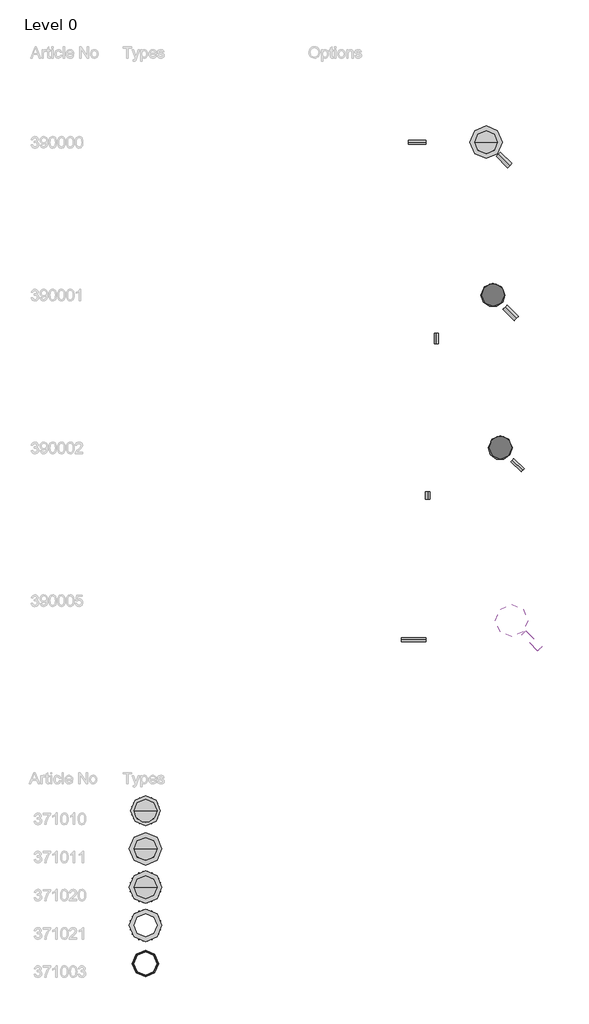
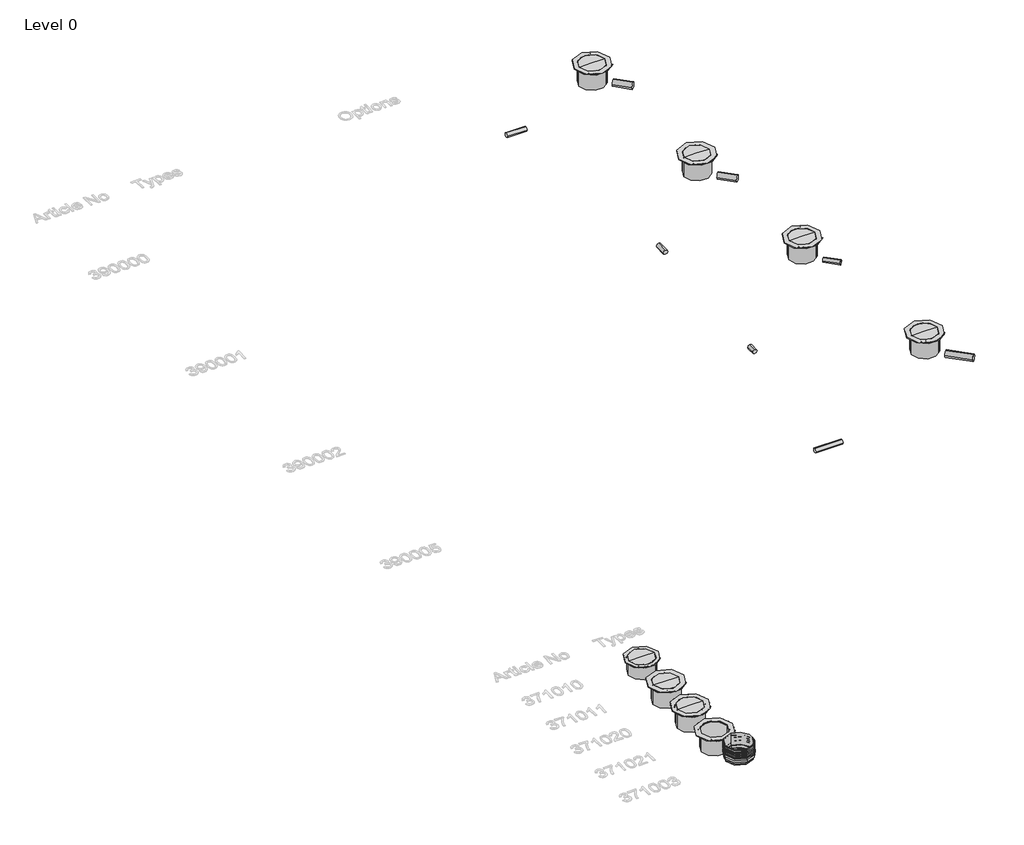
# One storey, part 1 of 14: 9 proxies, 8 pipe segments.
"""IFC4 building model written with IfcOpenShell, lengths in millimetres."""

from ifc_helpers import new_model, si_unit, point, frame, frame_2d, origin, place, context, project, spatial, circle_curve, trimmed, segment, composite_curve, outline, extrude, transform, mapped, element, save
from components import specialty_equipment_2c5f0238, specialty_equipment_5184973a, proxy_600_mini_8c9d897d, dome_600_vehicle_504724ee, intermediate_section_dn600_300mm_32245d74

model = new_model("IFC4")

# Units and contexts
model_context = context("Model", 3, world=origin())
ifc_project = project(units=[si_unit("LENGTHUNIT", "METRE", prefix="MILLI")], contexts=[model_context])

# Site, building, storey
site = spatial("IfcSite", under=ifc_project)
building = spatial("IfcBuilding", under=site)
storey = spatial("IfcBuildingStorey", under=building, Name="Level 0", Elevation=0.0)

# Proxies
placement = place(None, origin())
specialty_equipment_shape = specialty_equipment_2c5f0238(model_context)
element("IfcBuildingElementProxy", 1, Name="GRAF Tele Dome 600 Lorry : Dome 600 Lorry", ObjectType="GRAF Tele Dome 600 Lorry : Dome 600 Lorry", at=placement, inside=storey, context=model_context, shape_type="MappedRepresentation", body=[
    mapped(specialty_equipment_shape, transform((-3270.8351154, -11050.6026275, 0.0), x_axis=(1.0, 0.0, 0.0), y_axis=(0.0, 1.0, 0.0), z_axis=(0.0, 0.0, 1.0))),
])
specialty_equipment_2_shape = specialty_equipment_5184973a(model_context)
element("IfcBuildingElementProxy", 2, Name="GRAF Tele Dome 600 Maxi : 600 Maxi", ObjectType="GRAF Tele Dome 600 Maxi : 600 Maxi", at=placement, inside=storey, context=model_context, shape_type="MappedRepresentation", body=[
    mapped(specialty_equipment_2_shape, transform((6324.8797995, -3070.9767983, 1800.0), x_axis=(1.0, 0.0, 0.0), y_axis=(0.0, 1.0, 0.0), z_axis=(0.0, 0.0, 1.0))),
])
element("IfcBuildingElementProxy", 3, Name="GRAF Tele Dome 600 Maxi : 600 Maxi", ObjectType="GRAF Tele Dome 600 Maxi : 600 Maxi", at=placement, inside=storey, context=model_context, shape_type="MappedRepresentation", body=[
    mapped(specialty_equipment_2_shape, transform((5834.4926466, 5449.0842007, 1285.0), x_axis=(1.0, 0.0, 0.0), y_axis=(0.0, 1.0, 0.0), z_axis=(0.0, 0.0, 1.0))),
])
element("IfcBuildingElementProxy", 4, Name="GRAF Tele Dome 600 Maxi : 600 Maxi", ObjectType="GRAF Tele Dome 600 Maxi : 600 Maxi", at=placement, inside=storey, context=model_context, shape_type="MappedRepresentation", body=[
    mapped(specialty_equipment_2_shape, transform((5654.2075614, 9449.0232018, 1190.0), x_axis=(1.0, 0.0, 0.0), y_axis=(0.0, 1.0, 0.0), z_axis=(0.0, 0.0, 1.0))),
])
element("IfcBuildingElementProxy", 5, Name="GRAF Tele Dome 600 Maxi : 600 Maxi", ObjectType="GRAF Tele Dome 600 Maxi : 600 Maxi", at=placement, inside=storey, context=model_context, shape_type="MappedRepresentation", body=[
    mapped(specialty_equipment_2_shape, transform((6024.8797995, 1449.0842007, 1550.0), x_axis=(1.0, 0.0, 0.0), y_axis=(0.0, 1.0, 0.0), z_axis=(0.0, 0.0, 1.0))),
])
element("IfcBuildingElementProxy", 6, Name="GRAF Tele Dome 600 Maxi : 600 Maxi", ObjectType="GRAF Tele Dome 600 Maxi : 600 Maxi", at=placement, inside=storey, context=model_context, shape_type="MappedRepresentation", body=[
    mapped(specialty_equipment_2_shape, transform((-3270.8351154, -9050.9985493, 0.0), x_axis=(1.0, 0.0, 0.0), y_axis=(0.0, 1.0, 0.0), z_axis=(0.0, 0.0, 1.0))),
])
proxy_600_mini_shape = proxy_600_mini_8c9d897d(model_context)
element("IfcBuildingElementProxy", 7, Name="GRAF Tele Dome 600 Mini : 600 Mini", ObjectType="GRAF Tele Dome 600 Mini : 600 Mini", at=placement, inside=storey, context=model_context, shape_type="MappedRepresentation", body=[
    mapped(proxy_600_mini_shape, transform((-3270.8351154, -8050.9985493, 0.0), x_axis=(1.0, 0.0, 0.0), y_axis=(0.0, 1.0, 0.0), z_axis=(0.0, 0.0, 1.0))),
])
dome_600_vehicle_shape = dome_600_vehicle_504724ee(model_context)
element("IfcBuildingElementProxy", 8, Name="GRAF Tele Dome 600 Vehicle : Dome 600 Vehicle", ObjectType="GRAF Tele Dome 600 Vehicle : Dome 600 Vehicle", at=placement, inside=storey, context=model_context, shape_type="MappedRepresentation", body=[
    mapped(dome_600_vehicle_shape, transform((-3270.8351154, -10050.6026275, 0.0), x_axis=(1.0, 0.0, 0.0), y_axis=(0.0, 1.0, 0.0), z_axis=(0.0, 0.0, 1.0))),
])
intermediate_section_dn600_300mm_shape = intermediate_section_dn600_300mm_32245d74(model_context)
element("IfcBuildingElementProxy", 9, Name="GRAF Intermediate Section DN600 - 300mm : Intermediate Section DN600 - 300mm", ObjectType="GRAF Intermediate Section DN600 - 300mm : Intermediate Section DN600 - 300mm", at=placement, inside=storey, context=model_context, shape_type="MappedRepresentation", body=[
    mapped(intermediate_section_dn600_300mm_shape, transform((-2985.8351154, -12050.6026275, 0.0), x_axis=(1.0, 0.0, 0.0), y_axis=(0.0, 1.0, 0.0), z_axis=(0.0, 0.0, 1.0))),
])

# Pipe segments
element("IfcPipeSegment", 10, ObjectType="PE Waste Water", at=placement, inside=storey, context=model_context, shape_type="SweptSolid", body=[
    extrude(outline(composite_curve([segment(trimmed(circle_curve(frame_2d((0.0, -80.0)), 80.0), [point((-80.0, -80.0))], [point((0.0, 0.0))], False, "CARTESIAN"), True, "CONTINUOUS"), segment(trimmed(circle_curve(frame_2d((0.0, -80.0)), 80.0), [point((0.0, 0.0))], [point((80.0, -80.0))], False, "CARTESIAN"), True, "CONTINUOUS"), segment(trimmed(circle_curve(frame_2d((0.0, -80.0)), 80.0), [point((80.0, -80.0))], [point((0.0, -160.0))], False, "CARTESIAN"), True, "CONTINUOUS"), segment(trimmed(circle_curve(frame_2d((0.0, -80.0)), 80.0), [point((0.0, -160.0))], [point((-80.0, -80.0))], False, "CARTESIAN"), True, "CONTINUOUS")], self_intersect=False)), frame((7066.1089595, -3814.6718788, 1245.7566535), z_axis=(-0.7071067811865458, 0.7071067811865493, 0.0), x_axis=(0.7071067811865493, 0.7071067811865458, 0.0)), (0.0, 0.0, 1.0), 600.0),
])
element("IfcPipeSegment", 11, ObjectType="PE Waste Water", at=placement, inside=storey, context=model_context, shape_type="SweptSolid", body=[
    extrude(outline(composite_curve([segment(trimmed(circle_curve(frame_2d((-3575.9767992, 125.0)), 55.0), [point((-3520.9767992, 125.0))], [point((-3575.9767992, 70.0))], False, "CARTESIAN"), True, "CONTINUOUS"), segment(trimmed(circle_curve(frame_2d((-3575.9767992, 125.0)), 55.0), [point((-3575.9767992, 70.0))], [point((-3630.9767992, 125.0))], False, "CARTESIAN"), True, "CONTINUOUS"), segment(trimmed(circle_curve(frame_2d((-3575.9767992, 125.0)), 55.0), [point((-3630.9767992, 125.0))], [point((-3575.9767992, 180.0))], False, "CARTESIAN"), True, "CONTINUOUS"), segment(trimmed(circle_curve(frame_2d((-3575.9767992, 125.0)), 55.0), [point((-3575.9767992, 180.0))], [point((-3520.9767992, 125.0))], False, "CARTESIAN"), True, "CONTINUOUS")], self_intersect=False)), frame((3429.8797994, 0.0, 0.0), z_axis=(1.0, 0.0, 0.0), x_axis=(0.0, 1.0, 0.0)), (0.0, 0.0, 1.0), 643.9376709),
])
element("IfcPipeSegment", 12, ObjectType="PE Waste Water", at=placement, inside=storey, context=model_context, shape_type="SweptSolid", body=[
    extrude(outline(composite_curve([segment(trimmed(circle_curve(frame_2d((140.0, 4124.4926466)), 55.0), [point((140.0, 4069.4926466))], [point((85.0, 4124.4926466))], False, "CARTESIAN"), True, "CONTINUOUS"), segment(trimmed(circle_curve(frame_2d((140.0, 4124.4926466)), 55.0), [point((85.0, 4124.4926466))], [point((140.0, 4179.4926466))], False, "CARTESIAN"), True, "CONTINUOUS"), segment(trimmed(circle_curve(frame_2d((140.0, 4124.4926466)), 55.0), [point((140.0, 4179.4926466))], [point((195.0, 4124.4926466))], False, "CARTESIAN"), True, "CONTINUOUS"), segment(trimmed(circle_curve(frame_2d((140.0, 4124.4926466)), 55.0), [point((195.0, 4124.4926466))], [point((140.0, 4069.4926466))], False, "CARTESIAN"), True, "CONTINUOUS")], self_intersect=False)), frame((0.0, 103.0842007, 0.0), z_axis=(0.0, 1.0, 0.0), x_axis=(0.0, 0.0, 1.0)), (0.0, 0.0, 1.0), 196.0),
])
element("IfcPipeSegment", 13, ObjectType="PE Waste Water", at=placement, inside=storey, context=model_context, shape_type="SweptSolid", body=[
    extrude(outline(composite_curve([segment(trimmed(circle_curve(frame_2d((0.0, -55.0)), 55.0), [point((-55.0, -55.0))], [point((0.0, 0.0))], False, "CARTESIAN"), True, "CONTINUOUS"), segment(trimmed(circle_curve(frame_2d((0.0, -55.0)), 55.0), [point((0.0, 0.0))], [point((55.0, -55.0))], False, "CARTESIAN"), True, "CONTINUOUS"), segment(trimmed(circle_curve(frame_2d((0.0, -55.0)), 55.0), [point((55.0, -55.0))], [point((0.0, -110.0))], False, "CARTESIAN"), True, "CONTINUOUS"), segment(trimmed(circle_curve(frame_2d((0.0, -55.0)), 55.0), [point((0.0, -110.0))], [point((-55.0, -55.0))], False, "CARTESIAN"), True, "CONTINUOUS")], self_intersect=False)), frame((6612.1532641, 863.9576627, 995.0), z_axis=(-0.7071067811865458, 0.7071067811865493, 0.0), x_axis=(0.7071067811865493, 0.7071067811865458, 0.0)), (0.0, 0.0, 1.0), 375.7502166),
])
element("IfcPipeSegment", 14, ObjectType="PE Waste Water", at=placement, inside=storey, context=model_context, shape_type="SweptSolid", body=[
    extrude(outline(composite_curve([segment(trimmed(circle_curve(frame_2d((0.0, -80.0)), 80.0), [point((-80.0, -80.0))], [point((0.0, 0.0))], False, "CARTESIAN"), True, "CONTINUOUS"), segment(trimmed(circle_curve(frame_2d((0.0, -80.0)), 80.0), [point((0.0, 0.0))], [point((80.0, -80.0))], False, "CARTESIAN"), True, "CONTINUOUS"), segment(trimmed(circle_curve(frame_2d((0.0, -80.0)), 80.0), [point((80.0, -80.0))], [point((0.0, -160.0))], False, "CARTESIAN"), True, "CONTINUOUS"), segment(trimmed(circle_curve(frame_2d((0.0, -80.0)), 80.0), [point((0.0, -160.0))], [point((-80.0, -80.0))], False, "CARTESIAN"), True, "CONTINUOUS")], self_intersect=False)), frame((6446.6704956, 4836.9063517, 730.0), z_axis=(-0.7071067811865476, 0.7071067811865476, 0.0), x_axis=(0.7071067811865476, 0.7071067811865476, 0.0)), (0.0, 0.0, 1.0), 415.7502166),
])
element("IfcPipeSegment", 15, ObjectType="PE Waste Water", at=placement, inside=storey, context=model_context, shape_type="SweptSolid", body=[
    extrude(outline(composite_curve([segment(trimmed(circle_curve(frame_2d((0.0, -55.0)), 55.0), [point((0.0, 0.0))], [point((55.0, -55.0))], False, "CARTESIAN"), True, "CONTINUOUS"), segment(trimmed(circle_curve(frame_2d((0.0, -55.0)), 55.0), [point((55.0, -55.0))], [point((0.0, -110.0))], False, "CARTESIAN"), True, "CONTINUOUS"), segment(trimmed(circle_curve(frame_2d((0.0, -55.0)), 55.0), [point((0.0, -110.0))], [point((-55.0, -55.0))], False, "CARTESIAN"), True, "CONTINUOUS"), segment(trimmed(circle_curve(frame_2d((0.0, -55.0)), 55.0), [point((-55.0, -55.0))], [point((0.0, 0.0))], False, "CARTESIAN"), True, "CONTINUOUS")], self_intersect=False)), frame((4299.4926466, 4173.0842007, 88.6), z_axis=(0.0, 0.9999999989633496, 4.553351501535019e-05), x_axis=(0.0, 4.553351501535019e-05, -0.9999999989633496)), (0.0, 0.0, 1.0), 281.7406111),
])
element("IfcPipeSegment", 16, ObjectType="PE Waste Water", at=placement, inside=storey, context=model_context, shape_type="SweptSolid", body=[
    extrude(outline(composite_curve([segment(trimmed(circle_curve(frame_2d((0.0, -80.0)), 80.0), [point((-80.0, -80.0))], [point((0.0, 0.0))], False, "CARTESIAN"), True, "CONTINUOUS"), segment(trimmed(circle_curve(frame_2d((0.0, -80.0)), 80.0), [point((0.0, 0.0))], [point((80.0, -80.0))], False, "CARTESIAN"), True, "CONTINUOUS"), segment(trimmed(circle_curve(frame_2d((0.0, -80.0)), 80.0), [point((80.0, -80.0))], [point((0.0, -160.0))], False, "CARTESIAN"), True, "CONTINUOUS"), segment(trimmed(circle_curve(frame_2d((0.0, -80.0)), 80.0), [point((0.0, -160.0))], [point((-80.0, -80.0))], False, "CARTESIAN"), True, "CONTINUOUS")], self_intersect=False)), frame((6271.75836, 8836.2082012, 695.1020391), z_axis=(-0.7071067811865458, 0.7071067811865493, 0.0), x_axis=(0.7071067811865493, 0.7071067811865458, 0.0)), (0.0, 0.0, 1.0), 420.0),
])
element("IfcPipeSegment", 17, ObjectType="PE Waste Water", at=placement, inside=storey, context=model_context, shape_type="SweptSolid", body=[
    extrude(outline(composite_curve([segment(trimmed(circle_curve(frame_2d((0.0, -55.0)), 55.0), [point((-55.0, -55.0))], [point((0.0, 0.0))], False, "CARTESIAN"), True, "CONTINUOUS"), segment(trimmed(circle_curve(frame_2d((0.0, -55.0)), 55.0), [point((0.0, 0.0))], [point((55.0, -55.0))], False, "CARTESIAN"), True, "CONTINUOUS"), segment(trimmed(circle_curve(frame_2d((0.0, -55.0)), 55.0), [point((55.0, -55.0))], [point((0.0, -110.0))], False, "CARTESIAN"), True, "CONTINUOUS"), segment(trimmed(circle_curve(frame_2d((0.0, -55.0)), 55.0), [point((0.0, -110.0))], [point((-55.0, -55.0))], False, "CARTESIAN"), True, "CONTINUOUS")], self_intersect=False)), frame((3619.8808988, 9449.0232018, 35.0), z_axis=(0.9999999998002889, 0.0, 1.9985553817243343e-05), x_axis=(0.0, -1.0, 0.0)), (0.0, 0.0, 1.0), 460.0),
])

save(model, "model.ifc")
